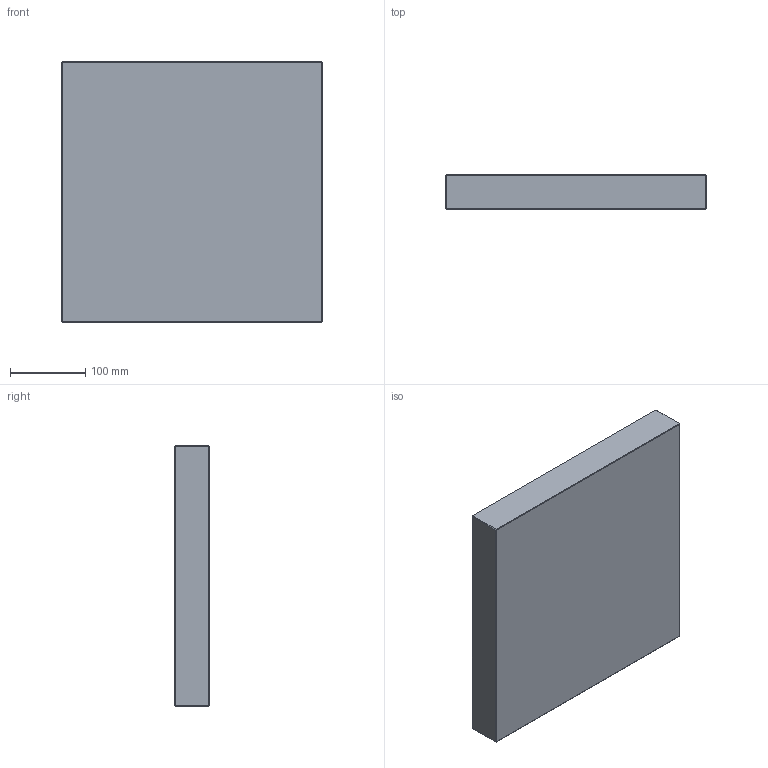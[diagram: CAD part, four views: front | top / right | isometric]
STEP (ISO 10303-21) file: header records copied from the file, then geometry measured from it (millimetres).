
FILE_DESCRIPTION (( 'STEP AP214' ), '1' );
FILE_NAME ('PC-P-346x346x46.STEP', '2020-04-01T09:59:03', ( 'August' ), ( '' ), 'SwSTEP 2.0', 'SolidWorks 2018', '' );
FILE_SCHEMA (( 'AUTOMOTIVE_DESIGN' ));
Length unit declared in the file: millimetre
Products named in the file (1): PC-P-346x346x46
Bounding box: 346 x 46 x 346 mm (x, y, z)
Volume: 5505465.3 mm3; surface area: 301363.7 mm2
Topology: 1 solids, 1 shells, 26 faces, 48 edges, 24 vertices
Faces by surface type: plane 26
Entity records: 634 total; most frequent: DIRECTION 102, CARTESIAN_POINT 99, ORIENTED_EDGE 96, EDGE_CURVE 48, VECTOR 48, LINE 48, AXIS2_PLACEMENT_3D 27, PLANE 26
